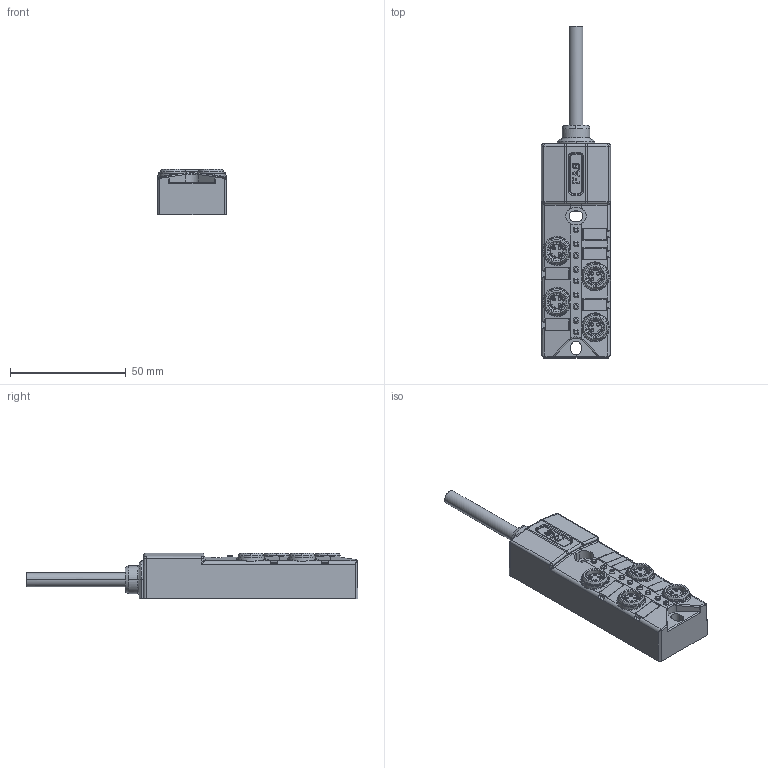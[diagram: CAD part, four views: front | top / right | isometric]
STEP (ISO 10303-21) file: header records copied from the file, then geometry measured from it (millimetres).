
FILE_DESCRIPTION (( 'STEP AP203' ), '1' );
FILE_NAME ('23P421.STEP', '2019-09-24T06:55:59', ( '' ), ( '' ), 'SwSTEP 2.0', 'SolidWorks 2016', '' );
FILE_SCHEMA (( 'CONFIG_CONTROL_DESIGN' ));
Products named in the file (1): 23P421
Bounding box: 29.94 x 143.22 x 19.75 mm (x, y, z)
Volume: 33188.1 mm3; surface area: 23881.8 mm2
Topology: 1 solids, 1 shells, 1460 faces, 3908 edges, 2525 vertices
Faces by surface type: plane 588, cylinder 462, bspline 207, cone 203
Entity records: 72748 total; most frequent: CARTESIAN_POINT 38314, ORIENTED_EDGE 7780, DIRECTION 6301, EDGE_CURVE 3890, VERTEX_POINT 2525, AXIS2_PLACEMENT_3D 2211, LINE 1879, VECTOR 1879
